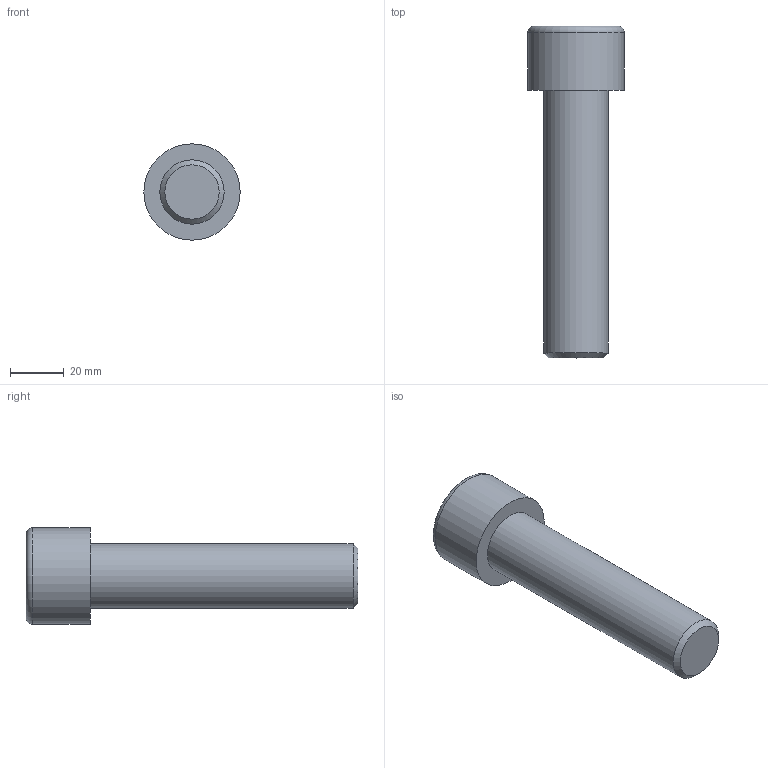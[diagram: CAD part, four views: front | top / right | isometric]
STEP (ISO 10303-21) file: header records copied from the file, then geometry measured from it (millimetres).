
FILE_DESCRIPTION(/* description */ (''),/* implementation_level */ '2;1');
FILE_NAME(/* name */ 'C:\Users\D\Documents\Inventor\各種小物\JIS\JIS B 1176 六角穴付きボルト\M24x100.stp',/* time_stamp */ '2022-05-09T18:59:51+09:00',/* author */ ('D'),/* organization */ (''),/* preprocessor_version */ 'ST-DEVELOPER v18',/* originating_system */ 'Autodesk Inventor 2020',/* authorisation */ '');
FILE_SCHEMA (('AUTOMOTIVE_DESIGN { 1 0 10303 214 3 1 1 }'));
Length unit declared in the file: millimetre
Products named in the file (1): M1.6x2.5
Bounding box: 36 x 124 x 36 mm (x, y, z)
Volume: 64883.4 mm3; surface area: 12960 mm2
Topology: 1 solids, 1 shells, 14 faces, 33 edges, 22 vertices
Faces by surface type: plane 9, cone 2, cylinder 2, torus 1
Full cylindrical faces by diameter (mm): 24 x1, 36 x1
Entity records: 435 total; most frequent: CARTESIAN_POINT 83, ORIENTED_EDGE 64, DIRECTION 64, EDGE_CURVE 32, AXIS2_PLACEMENT_3D 24, VERTEX_POINT 22, EDGE_LOOP 16, LINE 16
